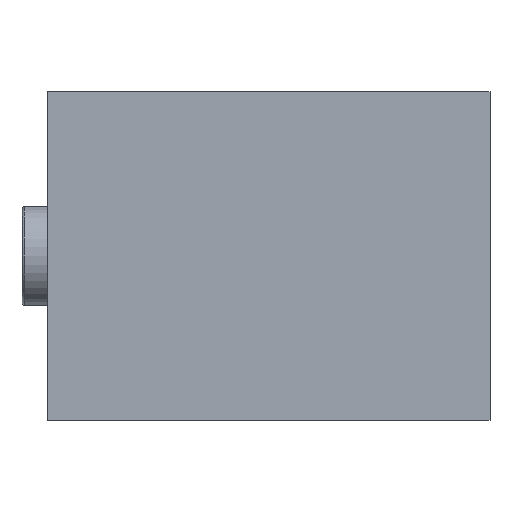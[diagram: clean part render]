
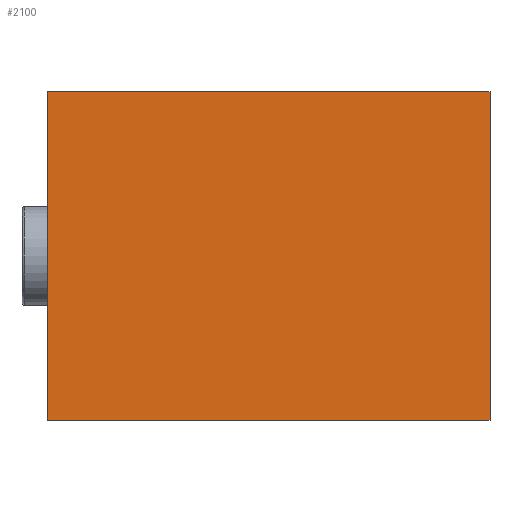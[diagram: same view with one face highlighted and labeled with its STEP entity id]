
A CAD part, front view. The second image highlights one B-rep face of the part: STEP entity #2100.
In plain terms, the highlighted planar face has unit normal (0, -1, 0).
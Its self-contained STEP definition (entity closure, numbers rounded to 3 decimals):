
#2 = LINE ( 'NONE', #1973, #374 ) ;
#23 = VERTEX_POINT ( 'NONE', #720 ) ;
#265 = EDGE_LOOP ( 'NONE', ( #2709, #319, #1986, #2349 ) ) ;
#296 = PLANE ( 'NONE',  #1624 ) ;
#319 = ORIENTED_EDGE ( 'NONE', *, *, #402, .F. ) ;
#374 = VECTOR ( 'NONE', #602, 1000. ) ;
#402 = EDGE_CURVE ( 'NONE', #2242, #2638, #673, .T. ) ;
#602 = DIRECTION ( 'NONE',  ( -1., 0., 0. ) ) ;
#667 = LINE ( 'NONE', #1111, #1031 ) ;
#673 = LINE ( 'NONE', #2944, #2335 ) ;
#720 = CARTESIAN_POINT ( 'NONE',  ( -42.5, 0., -31.5 ) ) ;
#740 = VECTOR ( 'NONE', #2410, 1000. ) ;
#774 = CARTESIAN_POINT ( 'NONE',  ( 0., 0., 0. ) ) ;
#1031 = VECTOR ( 'NONE', #2763, 1000. ) ;
#1066 = LINE ( 'NONE', #2185, #740 ) ;
#1077 = DIRECTION ( 'NONE',  ( 1., 0., 0. ) ) ;
#1111 = CARTESIAN_POINT ( 'NONE',  ( 42.5, 0., -31.5 ) ) ;
#1478 = EDGE_CURVE ( 'NONE', #23, #2242, #1066, .T. ) ;
#1525 = CARTESIAN_POINT ( 'NONE',  ( -42.5, 0., 31.5 ) ) ;
#1624 = AXIS2_PLACEMENT_3D ( 'NONE', #774, #1951, #2623 ) ;
#1650 = EDGE_CURVE ( 'NONE', #2638, #2745, #667, .T. ) ;
#1951 = DIRECTION ( 'NONE',  ( 0., 1., 0. ) ) ;
#1973 = CARTESIAN_POINT ( 'NONE',  ( -42.5, 0., -31.5 ) ) ;
#1986 = ORIENTED_EDGE ( 'NONE', *, *, #1478, .F. ) ;
#2100 = ADVANCED_FACE ( 'NONE', ( #2255 ), #296, .F. ) ;
#2185 = CARTESIAN_POINT ( 'NONE',  ( -42.5, 0., -31.5 ) ) ;
#2241 = EDGE_CURVE ( 'NONE', #2745, #23, #2, .T. ) ;
#2242 = VERTEX_POINT ( 'NONE', #1525 ) ;
#2255 = FACE_OUTER_BOUND ( 'NONE', #265, .T. ) ;
#2335 = VECTOR ( 'NONE', #1077, 1000. ) ;
#2349 = ORIENTED_EDGE ( 'NONE', *, *, #2241, .F. ) ;
#2410 = DIRECTION ( 'NONE',  ( 0., 0., 1. ) ) ;
#2460 = CARTESIAN_POINT ( 'NONE',  ( 42.5, 0., -31.5 ) ) ;
#2474 = CARTESIAN_POINT ( 'NONE',  ( 42.5, 0., 31.5 ) ) ;
#2623 = DIRECTION ( 'NONE',  ( 0., 0., 1. ) ) ;
#2638 = VERTEX_POINT ( 'NONE', #2474 ) ;
#2709 = ORIENTED_EDGE ( 'NONE', *, *, #1650, .F. ) ;
#2745 = VERTEX_POINT ( 'NONE', #2460 ) ;
#2763 = DIRECTION ( 'NONE',  ( 0., 0., -1. ) ) ;
#2944 = CARTESIAN_POINT ( 'NONE',  ( -42.5, 0., 31.5 ) ) ;
